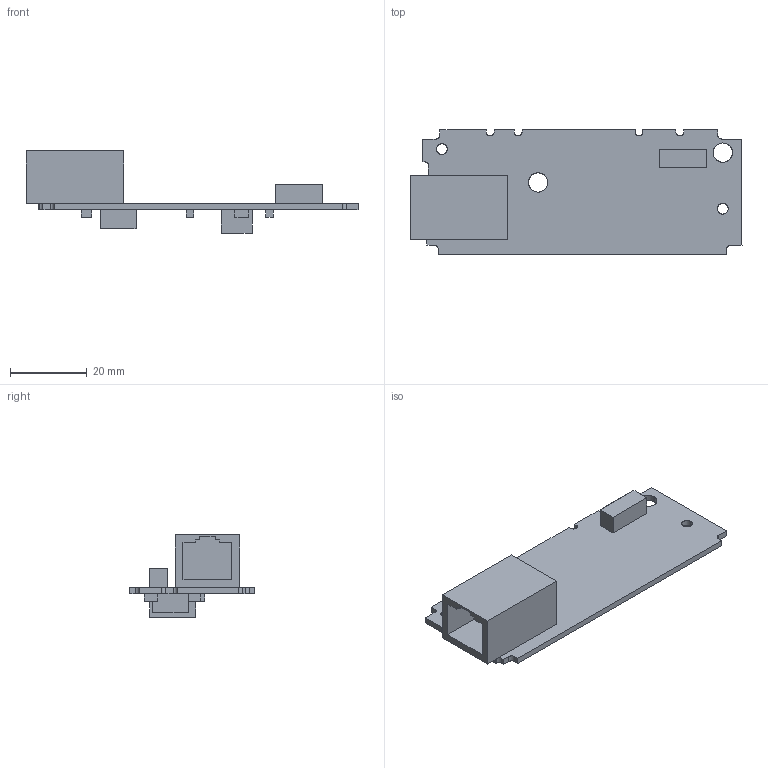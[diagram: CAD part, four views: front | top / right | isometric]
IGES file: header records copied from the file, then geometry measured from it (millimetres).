
Start section: SolidWorks IGES file using analytic representation for surfaces
Global section: file name: C:\Users\laorb\Desktop\PCB-COM2.IGS; native system: SolidWorks 2017; preprocessor: SolidWorks 2017; author: laorb; date: 190730.062300; units: millimetre
Bounding box: 86.3 x 32.32 x 21.4 mm (x, y, z)
Surface area: 8034.6 mm2 (no closed solid volume)
Topology: 0 solids, 0 shells, 106 faces, 1024 edges, 1024 vertices
Faces by surface type: bspline 86, revolution 20
